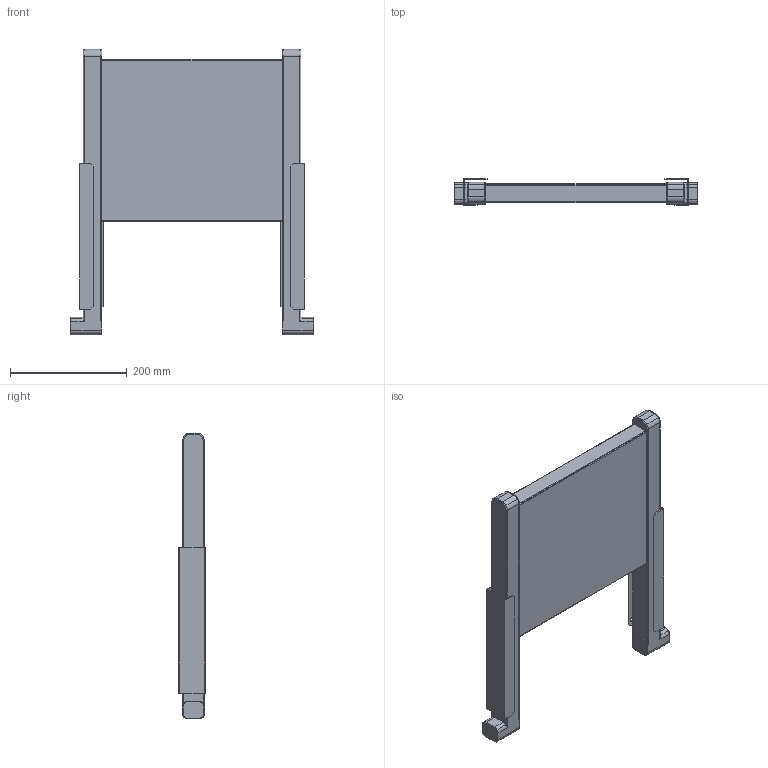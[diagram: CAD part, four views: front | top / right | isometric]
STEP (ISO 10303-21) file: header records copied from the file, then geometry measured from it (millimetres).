
FILE_DESCRIPTION(('STEP AP242'),'1');
FILE_NAME('OPO_53.540.17_volu_3d.stp','2025-11-08T20:33:13',(' '),(' '),'Spatial InterOp 3D',' ',' ');
FILE_SCHEMA(('AP242_MANAGED_MODEL_BASED_3D_ENGINEERING_MIM_LF {1 0 10303 442 1 1 4}'));
Length unit declared in the file: millimetre
Products named in the file (1): 1
Bounding box: 418 x 45 x 490 mm (x, y, z)
Volume: 3993689.8 mm3; surface area: 405581.9 mm2
Topology: 1 solids, 1 shells, 234 faces, 612 edges, 388 vertices
Faces by surface type: cylinder 122, plane 72, torus 28, cone 8, bspline 4
Entity records: 9734 total; most frequent: CARTESIAN_POINT 1889, DIRECTION 1322, ORIENTED_EDGE 1224, EDGE_CURVE 612, AXIS2_PLACEMENT_3D 503, VERTEX_POINT 388, LINE 316, VECTOR 316
